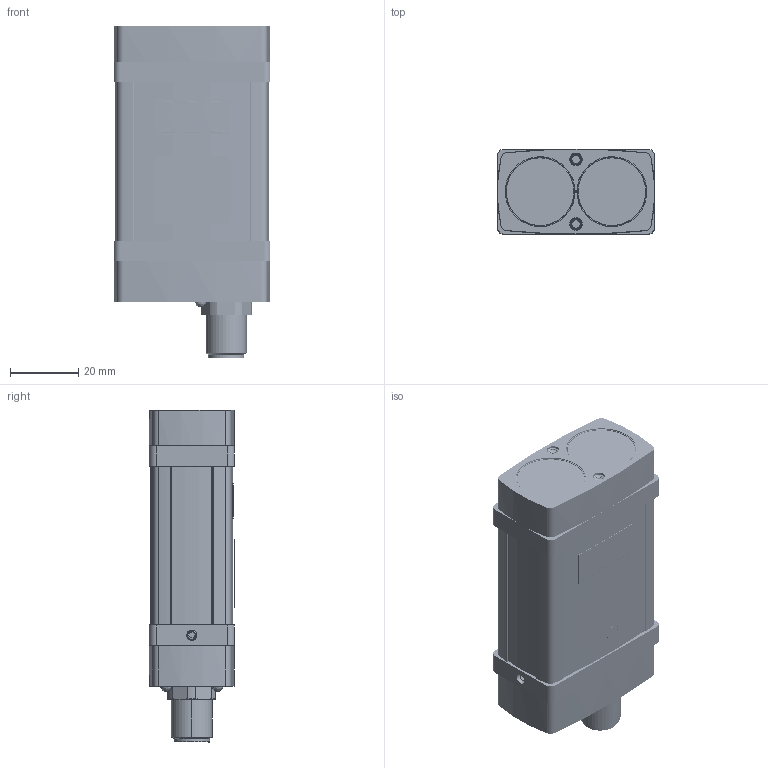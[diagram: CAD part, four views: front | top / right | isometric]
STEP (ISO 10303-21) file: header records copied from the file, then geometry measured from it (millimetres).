
FILE_DESCRIPTION((''),'2;1');
FILE_NAME('111-22_ASM','2018-09-12T',('Peter.Zimmermann'),('JENOPTIK Advanced Systems GmbH'),'PRO/ENGINEER BY PARAMETRIC TECHNOLOGY CORPORATION, 2016240','PRO/ENGINEER BY PARAMETRIC TECHNOLOGY CORPORATION, 2016240','');
FILE_SCHEMA(('AUTOMOTIVE_DESIGN { 1 0 10303 214 1 1 1 1 }'));
Products named in the file (3): OHNE_INHALT_111; 014071-180-25_BACKPLANE-STAND; 111-22_ASM
Assembly tree (2 placements, depth 2):
  111-22_ASM
    OHNE_INHALT_111
    014071-180-25_BACKPLANE-STAND
Bounding box: 46 x 25.09 x 97.3 mm (x, y, z)
Surface area: 38761.5 mm2 (no closed solid volume)
Topology: 0 solids, 305 shells, 2117 faces, 11441 edges, 9551 vertices
Faces by surface type: plane 1052, cylinder 603, cone 316, bspline 112, sphere 24, torus 6, revolution 4
Entity records: 170137 total; most frequent: CARTESIAN_POINT 78188, ORIENTED_EDGE 15610, DIRECTION 14081, EDGE_CURVE 11401, VERTEX_POINT 9551, VECTOR 6083, LINE 6083, AXIS2_PLACEMENT_3D 3997
